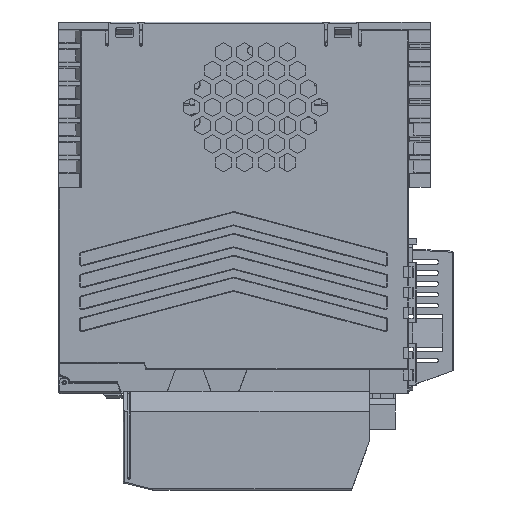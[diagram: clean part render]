
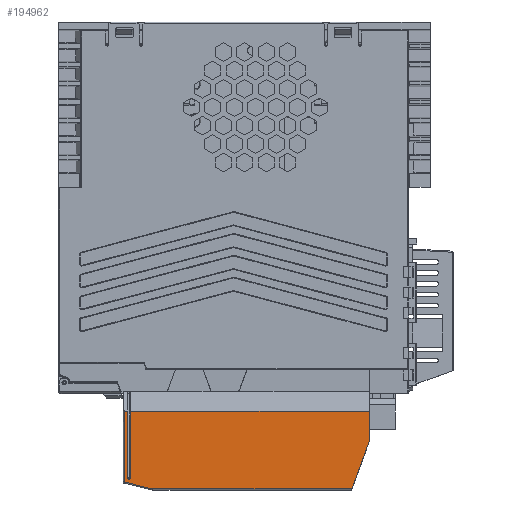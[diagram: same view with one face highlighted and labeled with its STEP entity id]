
A CAD part, top view. The second image highlights one B-rep face of the part: STEP entity #194962.
In plain terms, the highlighted planar face has unit normal (0, 0, 1) as drawn and (1, 0, 0) by its records, which use the part's own axes.
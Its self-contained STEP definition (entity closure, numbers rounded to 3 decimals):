
#192892=DIRECTION('',(0.,-1.,0.));
#192893=VECTOR('',#192892,91.066);
#192894=CARTESIAN_POINT('',(17.,5.524,44.5));
#192895=LINE('',#192894,#192893);
#192900=CARTESIAN_POINT('',(17.,16.14,39.5));
#192901=DIRECTION('',(1.,0.,0.));
#192902=DIRECTION('',(0.,0.,1.));
#192903=AXIS2_PLACEMENT_3D('',#192900,#192901,#192902);
#192905=DIRECTION('',(0.,0.,-1.));
#192906=VECTOR('',#192905,30.6);
#192907=CARTESIAN_POINT('',(17.,15.64,39.5));
#192908=LINE('',#192907,#192906);
#192909=DIRECTION('',(0.,-1.,0.));
#192910=VECTOR('',#192909,109.);
#192911=CARTESIAN_POINT('',(17.,15.64,8.9));
#192912=LINE('',#192911,#192910);
#192913=DIRECTION('',(0.,0.,1.));
#192914=VECTOR('',#192913,14.1);
#192915=CARTESIAN_POINT('',(17.,-93.36,8.9));
#192916=LINE('',#192915,#192914);
#192917=DIRECTION('',(0.,0.342,0.94));
#192918=VECTOR('',#192917,22.877);
#192919=CARTESIAN_POINT('',(17.,-93.36,23.));
#192920=LINE('',#192919,#192918);
#192921=CARTESIAN_POINT('',(17.,5.524,40.));
#192922=DIRECTION('',(-1.,0.,0.));
#192923=DIRECTION('',(0.,0.,1.));
#192924=AXIS2_PLACEMENT_3D('',#192921,#192922,#192923);
#192926=DIRECTION('',(0.,0.97,-0.243));
#192927=VECTOR('',#192926,12.394);
#192928=CARTESIAN_POINT('',(17.,6.616,44.366));
#192929=LINE('',#192928,#192927);
#192930=DIRECTION('',(0.,-1.,0.));
#192931=VECTOR('',#192930,1.5);
#192932=CARTESIAN_POINT('',(17.,18.64,8.9));
#192933=LINE('',#192932,#192931);
#192934=CARTESIAN_POINT('',(17.,16.14,39.469));
#192935=DIRECTION('',(1.,0.,0.));
#192936=DIRECTION('',(0.,1.,0.));
#192937=AXIS2_PLACEMENT_3D('',#192934,#192935,#192936);
#192939=CARTESIAN_POINT('',(17.,16.639,39.5));
#192940=DIRECTION('',(1.,0.,0.));
#192941=DIRECTION('',(0.,0.998,0.062));
#192942=AXIS2_PLACEMENT_3D('',#192939,#192940,#192941);
#192944=DIRECTION('',(0.,1.,0.));
#192945=VECTOR('',#192944,0.499);
#192946=CARTESIAN_POINT('',(17.,16.14,40.));
#192947=LINE('',#192946,#192945);
#193210=DIRECTION('',(0.,0.,-1.));
#193211=VECTOR('',#193210,30.569);
#193212=CARTESIAN_POINT('',(17.,17.14,39.469));
#193213=LINE('',#193212,#193211);
#193278=DIRECTION('',(0.,0.,1.));
#193279=VECTOR('',#193278,32.46);
#193280=CARTESIAN_POINT('',(17.,18.64,8.9));
#193281=LINE('',#193280,#193279);
#194487=CARTESIAN_POINT('',(17.,5.524,44.5));
#194488=CARTESIAN_POINT('',(17.,-85.542,44.5));
#194489=VERTEX_POINT('',#194487);
#194490=VERTEX_POINT('',#194488);
#194491=CARTESIAN_POINT('',(17.,16.14,40.));
#194492=CARTESIAN_POINT('',(17.,16.639,40.));
#194493=VERTEX_POINT('',#194491);
#194494=VERTEX_POINT('',#194492);
#194495=CARTESIAN_POINT('',(17.,15.64,39.5));
#194496=VERTEX_POINT('',#194495);
#194497=CARTESIAN_POINT('',(17.,15.64,8.9));
#194498=VERTEX_POINT('',#194497);
#194499=CARTESIAN_POINT('',(17.,-93.36,8.9));
#194500=VERTEX_POINT('',#194499);
#194501=CARTESIAN_POINT('',(17.,-93.36,23.));
#194502=VERTEX_POINT('',#194501);
#194503=CARTESIAN_POINT('',(17.,6.616,44.366));
#194504=VERTEX_POINT('',#194503);
#194505=CARTESIAN_POINT('',(17.,18.64,41.36));
#194506=VERTEX_POINT('',#194505);
#194507=CARTESIAN_POINT('',(17.,18.64,8.9));
#194508=VERTEX_POINT('',#194507);
#194509=CARTESIAN_POINT('',(17.,17.14,8.9));
#194510=VERTEX_POINT('',#194509);
#194511=CARTESIAN_POINT('',(17.,17.14,39.469));
#194512=VERTEX_POINT('',#194511);
#194513=CARTESIAN_POINT('',(17.,17.138,39.531));
#194514=VERTEX_POINT('',#194513);
#194928=CARTESIAN_POINT('',(17.,-93.36,0.));
#194929=DIRECTION('',(1.,0.,0.));
#194930=DIRECTION('',(0.,1.,0.));
#194931=AXIS2_PLACEMENT_3D('',#194928,#194929,#194930);
#194932=PLANE('',#194931);
#194934=ORIENTED_EDGE('',*,*,#194933,.F.);
#194936=ORIENTED_EDGE('',*,*,#194935,.T.);
#194938=ORIENTED_EDGE('',*,*,#194937,.T.);
#194940=ORIENTED_EDGE('',*,*,#194939,.T.);
#194942=ORIENTED_EDGE('',*,*,#194941,.T.);
#194944=ORIENTED_EDGE('',*,*,#194943,.T.);
#194945=ORIENTED_EDGE('',*,*,#194918,.F.);
#194947=ORIENTED_EDGE('',*,*,#194946,.T.);
#194949=ORIENTED_EDGE('',*,*,#194948,.T.);
#194951=ORIENTED_EDGE('',*,*,#194950,.F.);
#194953=ORIENTED_EDGE('',*,*,#194952,.T.);
#194955=ORIENTED_EDGE('',*,*,#194954,.F.);
#194957=ORIENTED_EDGE('',*,*,#194956,.T.);
#194959=ORIENTED_EDGE('',*,*,#194958,.T.);
#194960=EDGE_LOOP('',(#194934,#194936,#194938,#194940,#194942,#194944,#194945,
#194947,#194949,#194951,#194953,#194955,#194957,#194959));
#194961=FACE_OUTER_BOUND('',#194960,.F.);
#192904=CIRCLE('',#192903,0.5);
#192925=CIRCLE('',#192924,4.5);
#192938=CIRCLE('',#192937,1.);
#192943=CIRCLE('',#192942,0.5);
#194918=EDGE_CURVE('',#194489,#194490,#192895,.T.);
#194933=EDGE_CURVE('',#194493,#194494,#192947,.T.);
#194935=EDGE_CURVE('',#194493,#194496,#192904,.T.);
#194937=EDGE_CURVE('',#194496,#194498,#192908,.T.);
#194939=EDGE_CURVE('',#194498,#194500,#192912,.T.);
#194941=EDGE_CURVE('',#194500,#194502,#192916,.T.);
#194943=EDGE_CURVE('',#194502,#194490,#192920,.T.);
#194946=EDGE_CURVE('',#194489,#194504,#192925,.T.);
#194948=EDGE_CURVE('',#194504,#194506,#192929,.T.);
#194950=EDGE_CURVE('',#194508,#194506,#193281,.T.);
#194952=EDGE_CURVE('',#194508,#194510,#192933,.T.);
#194954=EDGE_CURVE('',#194512,#194510,#193213,.T.);
#194956=EDGE_CURVE('',#194512,#194514,#192938,.T.);
#194958=EDGE_CURVE('',#194514,#194494,#192943,.T.);
#194962=ADVANCED_FACE('',(#194961),#194932,.T.);
